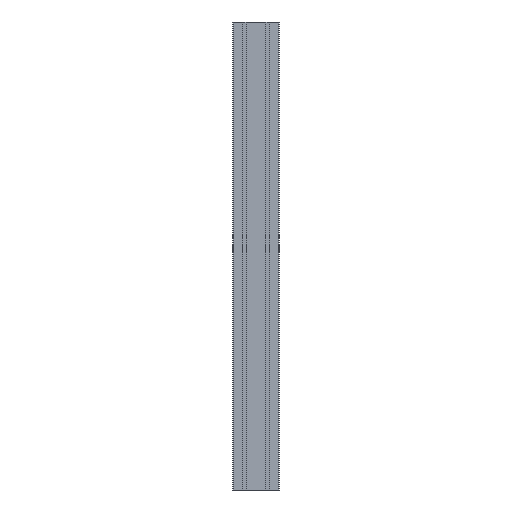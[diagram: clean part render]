
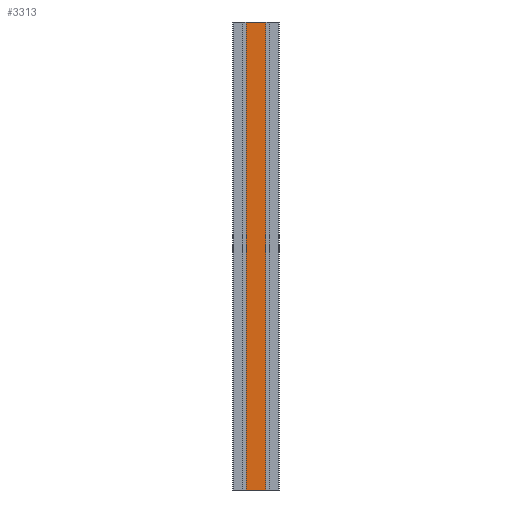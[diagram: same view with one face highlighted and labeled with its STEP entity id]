
A CAD part, front view. The second image highlights one B-rep face of the part: STEP entity #3313.
In plain terms, the highlighted planar face has unit normal (0, -1, 0).
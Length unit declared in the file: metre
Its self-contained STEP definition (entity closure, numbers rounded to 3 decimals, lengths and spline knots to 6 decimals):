
#114=PLANE('',#3582);
#277=FACE_OUTER_BOUND('',#443,.T.);
#443=EDGE_LOOP('',(#2694,#2695,#2696,#2697));
#787=LINE('',#5342,#1167);
#788=LINE('',#5345,#1168);
#789=LINE('',#5347,#1169);
#790=LINE('',#5348,#1170);
#1167=VECTOR('',#4390,1.);
#1168=VECTOR('',#4393,0.0417);
#1169=VECTOR('',#4394,0.0417);
#1170=VECTOR('',#4395,1.);
#1620=VERTEX_POINT('',#5338);
#1621=VERTEX_POINT('',#5340);
#1622=VERTEX_POINT('',#5344);
#1623=VERTEX_POINT('',#5346);
#2077=EDGE_CURVE('',#1620,#1621,#787,.T.);
#2078=EDGE_CURVE('',#1622,#1620,#788,.T.);
#2079=EDGE_CURVE('',#1623,#1621,#789,.T.);
#2080=EDGE_CURVE('',#1622,#1623,#790,.T.);
#2694=ORIENTED_EDGE('',*,*,#2078,.T.);
#2695=ORIENTED_EDGE('',*,*,#2077,.T.);
#2696=ORIENTED_EDGE('',*,*,#2079,.F.);
#2697=ORIENTED_EDGE('',*,*,#2080,.F.);
#3313=ADVANCED_FACE('',(#277),#114,.T.);
#3582=AXIS2_PLACEMENT_3D('',#5343,#4391,#4392);
#4390=DIRECTION('',(0.,0.,1.));
#4391=DIRECTION('center_axis',(0.,-1.,0.));
#4392=DIRECTION('ref_axis',(0.,0.,-1.));
#4393=DIRECTION('',(1.,0.,0.));
#4394=DIRECTION('',(1.,0.,0.));
#4395=DIRECTION('',(0.,0.,1.));
#5338=CARTESIAN_POINT('',(0.02085,-0.025,0.));
#5340=CARTESIAN_POINT('',(0.02085,-0.025,1.));
#5342=CARTESIAN_POINT('',(0.02085,-0.025,0.));
#5343=CARTESIAN_POINT('Origin',(-0.02085,-0.025,0.));
#5344=CARTESIAN_POINT('',(-0.02085,-0.025,0.));
#5345=CARTESIAN_POINT('',(-0.02085,-0.025,0.));
#5346=CARTESIAN_POINT('',(-0.02085,-0.025,1.));
#5347=CARTESIAN_POINT('',(-0.02085,-0.025,1.));
#5348=CARTESIAN_POINT('',(-0.02085,-0.025,0.));
